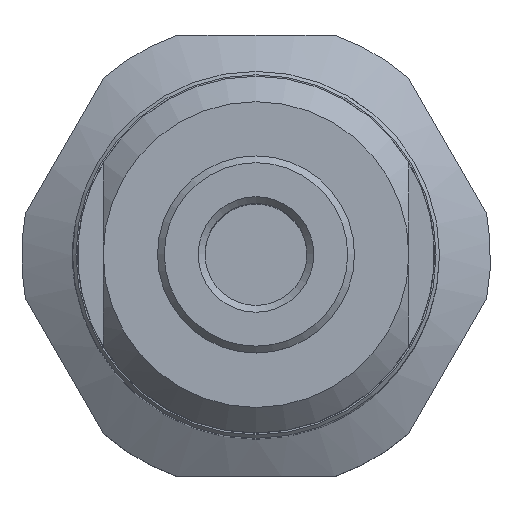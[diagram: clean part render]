
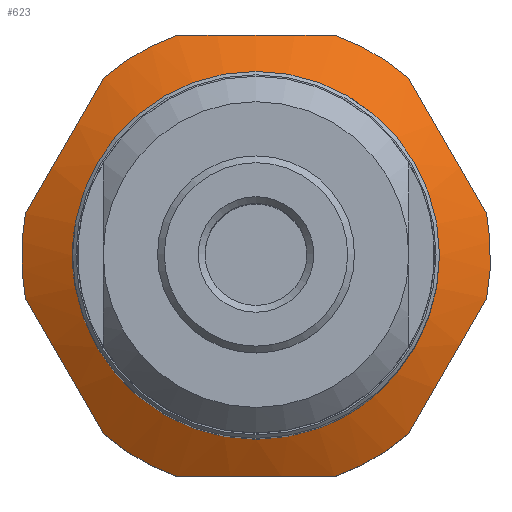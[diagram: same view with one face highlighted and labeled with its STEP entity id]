
A CAD part, top view. The second image highlights one B-rep face of the part: STEP entity #623.
In plain terms, the highlighted conical face has half-angle 60 degrees and reference radius 6.15 mm.
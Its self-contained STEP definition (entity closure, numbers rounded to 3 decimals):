
#58=(
BOUNDED_CURVE()
B_SPLINE_CURVE(2,(#1012,#1013,#1014),.UNSPECIFIED.,.F.,.F.)
B_SPLINE_CURVE_WITH_KNOTS((3,3),(0.,0.465),.UNSPECIFIED.)
CURVE()
GEOMETRIC_REPRESENTATION_ITEM()
RATIONAL_B_SPLINE_CURVE((1.,1.062,1.))
REPRESENTATION_ITEM('')
);
#60=(
BOUNDED_CURVE()
B_SPLINE_CURVE(2,(#1025,#1026,#1027),.UNSPECIFIED.,.F.,.F.)
B_SPLINE_CURVE_WITH_KNOTS((3,3),(0.,0.465),.UNSPECIFIED.)
CURVE()
GEOMETRIC_REPRESENTATION_ITEM()
RATIONAL_B_SPLINE_CURVE((1.,1.062,1.))
REPRESENTATION_ITEM('')
);
#62=(
BOUNDED_CURVE()
B_SPLINE_CURVE(2,(#1038,#1039,#1040),.UNSPECIFIED.,.F.,.F.)
B_SPLINE_CURVE_WITH_KNOTS((3,3),(0.,0.465),.UNSPECIFIED.)
CURVE()
GEOMETRIC_REPRESENTATION_ITEM()
RATIONAL_B_SPLINE_CURVE((1.,1.062,1.))
REPRESENTATION_ITEM('')
);
#64=(
BOUNDED_CURVE()
B_SPLINE_CURVE(2,(#1051,#1052,#1053),.UNSPECIFIED.,.F.,.F.)
B_SPLINE_CURVE_WITH_KNOTS((3,3),(0.,0.465),.UNSPECIFIED.)
CURVE()
GEOMETRIC_REPRESENTATION_ITEM()
RATIONAL_B_SPLINE_CURVE((1.,1.062,1.))
REPRESENTATION_ITEM('')
);
#65=(
BOUNDED_CURVE()
B_SPLINE_CURVE(2,(#1058,#1059,#1060),.UNSPECIFIED.,.F.,.F.)
B_SPLINE_CURVE_WITH_KNOTS((3,3),(0.,0.465),.UNSPECIFIED.)
CURVE()
GEOMETRIC_REPRESENTATION_ITEM()
RATIONAL_B_SPLINE_CURVE((1.,1.062,1.))
REPRESENTATION_ITEM('')
);
#67=(
BOUNDED_CURVE()
B_SPLINE_CURVE(2,(#1071,#1072,#1073),.UNSPECIFIED.,.F.,.F.)
B_SPLINE_CURVE_WITH_KNOTS((3,3),(0.,0.465),.UNSPECIFIED.)
CURVE()
GEOMETRIC_REPRESENTATION_ITEM()
RATIONAL_B_SPLINE_CURVE((1.,1.062,1.))
REPRESENTATION_ITEM('')
);
#76=CONICAL_SURFACE('',#705,6.15,60.);
#95=FACE_BOUND('',#216,.T.);
#157=FACE_OUTER_BOUND('',#215,.T.);
#215=EDGE_LOOP('',(#531,#532,#533,#534,#535,#536,#537,#538,#539,#540,#541,
#542));
#216=EDGE_LOOP('',(#543));
#260=CIRCLE('',#689,6.9);
#261=CIRCLE('',#691,6.9);
#263=CIRCLE('',#694,6.9);
#266=CIRCLE('',#698,6.9);
#267=CIRCLE('',#700,6.9);
#271=CIRCLE('',#706,6.9);
#272=CIRCLE('',#707,5.4);
#305=VERTEX_POINT('',#1009);
#306=VERTEX_POINT('',#1011);
#309=VERTEX_POINT('',#1022);
#310=VERTEX_POINT('',#1024);
#313=VERTEX_POINT('',#1035);
#314=VERTEX_POINT('',#1037);
#317=VERTEX_POINT('',#1048);
#318=VERTEX_POINT('',#1050);
#319=VERTEX_POINT('',#1056);
#320=VERTEX_POINT('',#1057);
#323=VERTEX_POINT('',#1069);
#324=VERTEX_POINT('',#1070);
#328=VERTEX_POINT('',#1102);
#370=EDGE_CURVE('',#306,#305,#58,.T.);
#374=EDGE_CURVE('',#310,#309,#60,.T.);
#378=EDGE_CURVE('',#314,#313,#62,.T.);
#382=EDGE_CURVE('',#318,#317,#64,.T.);
#384=EDGE_CURVE('',#319,#320,#65,.T.);
#388=EDGE_CURVE('',#323,#324,#67,.T.);
#393=EDGE_CURVE('',#323,#320,#260,.T.);
#394=EDGE_CURVE('',#314,#324,#261,.T.);
#396=EDGE_CURVE('',#310,#317,#263,.T.);
#399=EDGE_CURVE('',#318,#313,#266,.T.);
#400=EDGE_CURVE('',#306,#309,#267,.T.);
#404=EDGE_CURVE('',#319,#305,#271,.T.);
#405=EDGE_CURVE('',#328,#328,#272,.T.);
#531=ORIENTED_EDGE('',*,*,#370,.T.);
#532=ORIENTED_EDGE('',*,*,#404,.F.);
#533=ORIENTED_EDGE('',*,*,#384,.T.);
#534=ORIENTED_EDGE('',*,*,#393,.F.);
#535=ORIENTED_EDGE('',*,*,#388,.T.);
#536=ORIENTED_EDGE('',*,*,#394,.F.);
#537=ORIENTED_EDGE('',*,*,#378,.T.);
#538=ORIENTED_EDGE('',*,*,#399,.F.);
#539=ORIENTED_EDGE('',*,*,#382,.T.);
#540=ORIENTED_EDGE('',*,*,#396,.F.);
#541=ORIENTED_EDGE('',*,*,#374,.T.);
#542=ORIENTED_EDGE('',*,*,#400,.F.);
#543=ORIENTED_EDGE('',*,*,#405,.T.);
#623=ADVANCED_FACE('',(#157,#95),#76,.T.);
#689=AXIS2_PLACEMENT_3D('',#1083,#846,#847);
#691=AXIS2_PLACEMENT_3D('',#1085,#850,#851);
#694=AXIS2_PLACEMENT_3D('',#1088,#856,#857);
#698=AXIS2_PLACEMENT_3D('',#1092,#864,#865);
#700=AXIS2_PLACEMENT_3D('',#1094,#868,#869);
#705=AXIS2_PLACEMENT_3D('',#1100,#878,#879);
#706=AXIS2_PLACEMENT_3D('',#1101,#880,#881);
#707=AXIS2_PLACEMENT_3D('',#1103,#882,#883);
#846=DIRECTION('center_axis',(0.,0.,-1.));
#847=DIRECTION('ref_axis',(1.,0.,0.));
#850=DIRECTION('center_axis',(0.,0.,-1.));
#851=DIRECTION('ref_axis',(1.,0.,0.));
#856=DIRECTION('center_axis',(0.,0.,-1.));
#857=DIRECTION('ref_axis',(1.,0.,0.));
#864=DIRECTION('center_axis',(0.,0.,-1.));
#865=DIRECTION('ref_axis',(1.,0.,0.));
#868=DIRECTION('center_axis',(0.,0.,-1.));
#869=DIRECTION('ref_axis',(1.,0.,0.));
#878=DIRECTION('center_axis',(0.,0.,-1.));
#879=DIRECTION('ref_axis',(0.,1.,0.));
#880=DIRECTION('center_axis',(0.,0.,-1.));
#881=DIRECTION('ref_axis',(1.,0.,0.));
#882=DIRECTION('center_axis',(0.,0.,-1.));
#883=DIRECTION('ref_axis',(1.,0.,0.));
#1009=CARTESIAN_POINT('',(6.787,-1.245,-9.466));
#1011=CARTESIAN_POINT('',(4.472,-5.255,-9.466));
#1012=CARTESIAN_POINT('Ctrl Pts',(4.472,-5.255,-9.466));
#1013=CARTESIAN_POINT('Ctrl Pts',(5.629,-3.25,-9.018));
#1014=CARTESIAN_POINT('Ctrl Pts',(6.787,-1.245,-9.466));
#1022=CARTESIAN_POINT('',(2.315,-6.5,-9.466));
#1024=CARTESIAN_POINT('',(-2.315,-6.5,-9.466));
#1025=CARTESIAN_POINT('Ctrl Pts',(-2.315,-6.5,-9.466));
#1026=CARTESIAN_POINT('Ctrl Pts',(0.,-6.5,-9.018));
#1027=CARTESIAN_POINT('Ctrl Pts',(2.315,-6.5,-9.466));
#1035=CARTESIAN_POINT('',(-6.787,1.245,-9.466));
#1037=CARTESIAN_POINT('',(-4.472,5.255,-9.466));
#1038=CARTESIAN_POINT('Ctrl Pts',(-4.472,5.255,-9.466));
#1039=CARTESIAN_POINT('Ctrl Pts',(-5.629,3.25,-9.018));
#1040=CARTESIAN_POINT('Ctrl Pts',(-6.787,1.245,-9.466));
#1048=CARTESIAN_POINT('',(-4.472,-5.255,-9.466));
#1050=CARTESIAN_POINT('',(-6.787,-1.245,-9.466));
#1051=CARTESIAN_POINT('Ctrl Pts',(-6.787,-1.245,-9.466));
#1052=CARTESIAN_POINT('Ctrl Pts',(-5.629,-3.25,-9.018));
#1053=CARTESIAN_POINT('Ctrl Pts',(-4.472,-5.255,-9.466));
#1056=CARTESIAN_POINT('',(6.787,1.245,-9.466));
#1057=CARTESIAN_POINT('',(4.472,5.255,-9.466));
#1058=CARTESIAN_POINT('Ctrl Pts',(6.787,1.245,-9.466));
#1059=CARTESIAN_POINT('Ctrl Pts',(5.629,3.25,-9.018));
#1060=CARTESIAN_POINT('Ctrl Pts',(4.472,5.255,-9.466));
#1069=CARTESIAN_POINT('',(2.315,6.5,-9.466));
#1070=CARTESIAN_POINT('',(-2.315,6.5,-9.466));
#1071=CARTESIAN_POINT('Ctrl Pts',(2.315,6.5,-9.466));
#1072=CARTESIAN_POINT('Ctrl Pts',(0.,6.5,-9.018));
#1073=CARTESIAN_POINT('Ctrl Pts',(-2.315,6.5,-9.466));
#1083=CARTESIAN_POINT('Origin',(0.,0.,-9.466));
#1085=CARTESIAN_POINT('Origin',(0.,0.,-9.466));
#1088=CARTESIAN_POINT('Origin',(0.,0.,-9.466));
#1092=CARTESIAN_POINT('Origin',(0.,0.,-9.466));
#1094=CARTESIAN_POINT('Origin',(0.,0.,-9.466));
#1100=CARTESIAN_POINT('Origin',(0.,0.,-9.033));
#1101=CARTESIAN_POINT('Origin',(0.,0.,-9.466));
#1102=CARTESIAN_POINT('',(0.,5.4,-8.6));
#1103=CARTESIAN_POINT('Origin',(0.,0.,-8.6));
